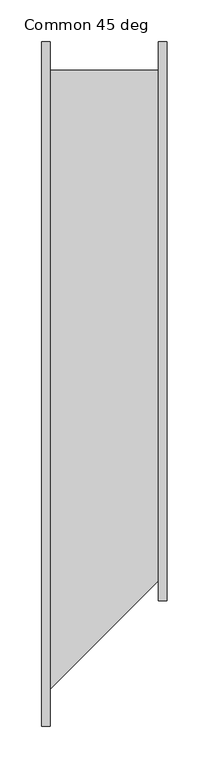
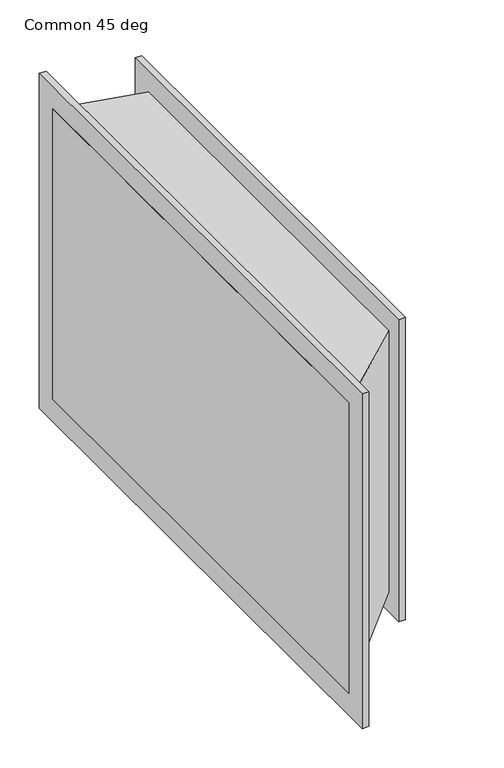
"""IFC4 building model written with IfcOpenShell, lengths in millimetres: duct fitting geometry, 041_角型置換 - フランジ - 角度 : Common 45 deg."""

from ifc_helpers import new_model, si_unit, frame, origin, place, context, project, spatial, polyline, outline, extrude, faceted_brep, source, transform, mapped, element, save


def common_45_deg_e8d3140c(model_context):
    return source(origin(), model_context, "Body", "SolidModel", [
        faceted_brep([(150.0, -225.0, 200.0), (150.0, -225.0, -200.0), (150.0, 375.0, -200.0), (150.0, 375.0, 200.0), (0.0, -375.0, 225.0), (0.0, 375.0, 225.0), (0.0, 375.0, -225.0), (0.0, -375.0, -225.0)], [[[0, 1, 2, 3]], [[4, 5, 6, 7]], [[4, 7, 1, 0]], [[7, 6, 2, 1]], [[6, 5, 3, 2]], [[5, 4, 0, 3]]]),
        extrude(outline(polyline([(150.0, 409.0), (150.0, -259.0), (140.0, -259.0), (140.0, 409.0), (150.0, 409.0)])), frame((0.0, 0.0, -234.0), z_axis=(0.0, 0.0, 1.0), x_axis=(1.0, 0.0, 0.0)), (0.0, 0.0, 1.0), 468.0),
        extrude(outline(polyline([(10.0, 409.0), (10.0, -409.0), (0.0, -409.0), (0.0, 409.0), (10.0, 409.0)])), frame((0.0, 0.0, -259.0), z_axis=(0.0, 0.0, 1.0), x_axis=(1.0, 0.0, 0.0)), (0.0, 0.0, 1.0), 518.0),
    ])


if __name__ == "__main__":
    model = new_model("IFC4")
    model_context = context("Model", 3, world=origin())
    ifc_project = project(units=[si_unit("LENGTHUNIT", "METRE", prefix="MILLI")], contexts=[model_context])
    site = spatial("IfcSite", under=ifc_project)
    building = spatial("IfcBuilding", under=site)
    placement = place(None, origin())
    common_45_deg_shape = common_45_deg_e8d3140c(model_context)
    element("IfcDuctFitting", 1, ObjectType="041_角型置換 - フランジ - 角度 : Common 45 deg", at=placement, inside=building, context=model_context, shape_type="MappedRepresentation", body=[
        mapped(common_45_deg_shape, transform((0.0, 0.0, 0.0), x_axis=(1.0, 0.0, 0.0), y_axis=(0.0, 1.0, 0.0), z_axis=(0.0, 0.0, 1.0))),
    ])
    save(model, "model.ifc")
